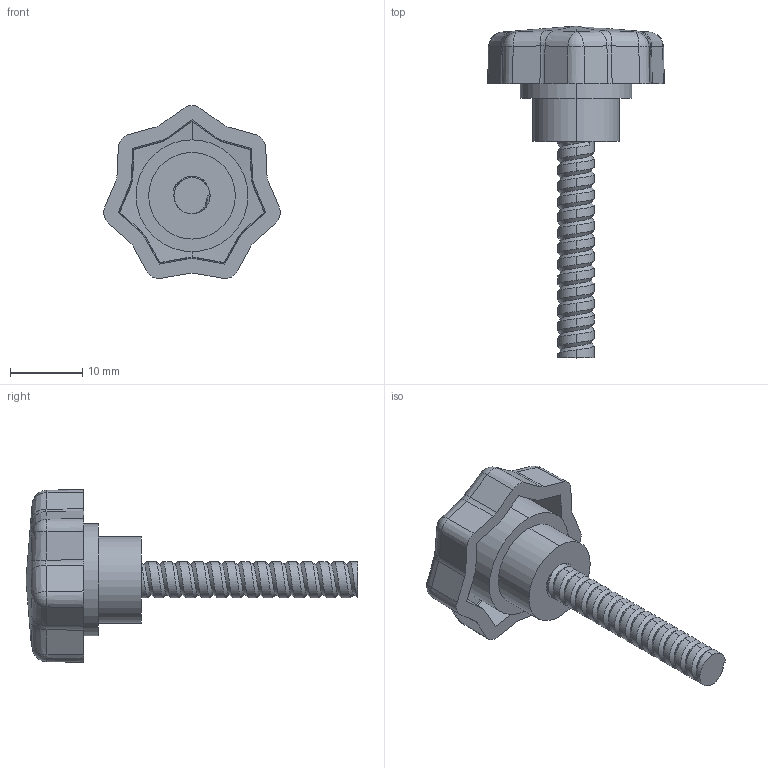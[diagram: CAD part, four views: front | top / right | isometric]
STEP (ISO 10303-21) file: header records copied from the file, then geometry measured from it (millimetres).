
FILE_DESCRIPTION (( 'STEP AP203' ), '1' );
FILE_NAME ('AP-1050-25-M5-30.STEP', '2015-11-23T11:53:17', ( '' ), ( '' ), 'SwSTEP 2.0', 'SolidWorks 2014', '' );
FILE_SCHEMA (( 'CONFIG_CONTROL_DESIGN' ));
Length unit declared in the file: millimetre
Products named in the file (1): AP-1050-25-M5-30
Bounding box: 24.46 x 46 x 23.96 mm (x, y, z)
Volume: 4146.9 mm3; surface area: 2742.3 mm2
Topology: 1 solids, 1 shells, 147 faces, 375 edges, 224 vertices
Faces by surface type: cylinder 51, bspline 51, plane 34, cone 11
Entity records: 7994 total; most frequent: CARTESIAN_POINT 5064, ORIENTED_EDGE 732, DIRECTION 416, EDGE_CURVE 366, VERTEX_POINT 224, EDGE_LOOP 150, ADVANCED_FACE 147, FACE_OUTER_BOUND 147
